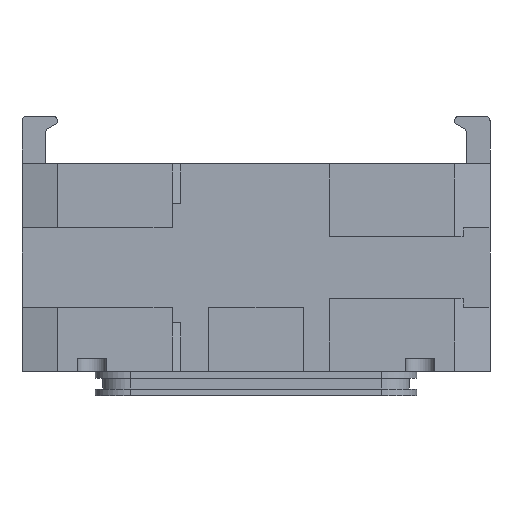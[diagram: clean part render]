
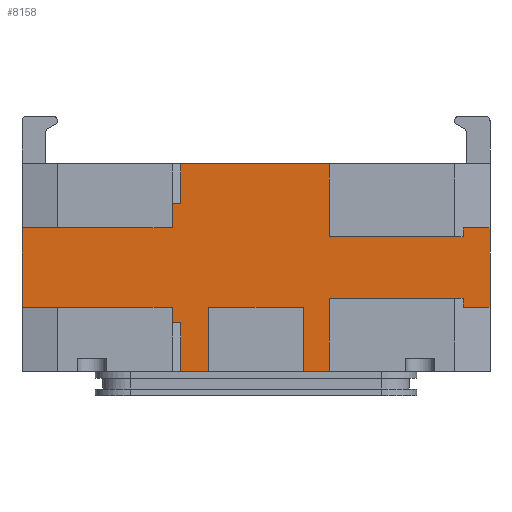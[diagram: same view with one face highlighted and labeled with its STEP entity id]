
A CAD part, front view. The second image highlights one B-rep face of the part: STEP entity #8158.
In plain terms, the highlighted planar face has unit normal (0, -1, 0).
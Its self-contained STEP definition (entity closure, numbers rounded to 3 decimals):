
#248 = VECTOR ( 'NONE', #17611, 1000. ) ;
#285 = VERTEX_POINT ( 'NONE', #24026 ) ;
#1222 = CARTESIAN_POINT ( 'NONE',  ( -19., 4., 23.5 ) ) ;
#1491 = EDGE_CURVE ( 'NONE', #28703, #16166, #20870, .T. ) ;
#1823 = ORIENTED_EDGE ( 'NONE', *, *, #14161, .T. ) ;
#2387 = DIRECTION ( 'NONE',  ( 0., 0., 1. ) ) ;
#2747 = EDGE_LOOP ( 'NONE', ( #19786, #20569, #11149, #17601, #21946, #21310, #16059, #1823, #12461, #24342, #4209, #14930, #24907, #29482, #22711, #23366 ) ) ;
#2853 = DIRECTION ( 'NONE',  ( 0., 0., -1. ) ) ;
#3646 = CARTESIAN_POINT ( 'NONE',  ( -53., 4., 9. ) ) ;
#4209 = ORIENTED_EDGE ( 'NONE', *, *, #14958, .F. ) ;
#4319 = CARTESIAN_POINT ( 'NONE',  ( -53., 4., 9. ) ) ;
#4833 = DIRECTION ( 'NONE',  ( 1., 0., 0. ) ) ;
#5076 = DIRECTION ( 'NONE',  ( 1., 0., 0. ) ) ;
#5847 = VECTOR ( 'NONE', #2853, 1000. ) ;
#6358 = DIRECTION ( 'NONE',  ( 1., 0., 0. ) ) ;
#6925 = DIRECTION ( 'NONE',  ( 0., 0., 1. ) ) ;
#7272 = EDGE_CURVE ( 'NONE', #21460, #13106, #11824, .T. ) ;
#7339 = DIRECTION ( 'NONE',  ( 0., 0., -1. ) ) ;
#7605 = CARTESIAN_POINT ( 'NONE',  ( -53., 4., -9. ) ) ;
#7661 = CARTESIAN_POINT ( 'NONE',  ( 16.6, 4., 23.5 ) ) ;
#7933 = EDGE_CURVE ( 'NONE', #15651, #22486, #23613, .T. ) ;
#8158 = ADVANCED_FACE ( 'NONE', ( #28865 ), #11967, .F. ) ;
#8590 = EDGE_CURVE ( 'NONE', #28703, #285, #16524, .T. ) ;
#8611 = EDGE_CURVE ( 'NONE', #17871, #24783, #12242, .T. ) ;
#8619 = LINE ( 'NONE', #23323, #14380 ) ;
#9254 = VERTEX_POINT ( 'NONE', #13043 ) ;
#9449 = VERTEX_POINT ( 'NONE', #12657 ) ;
#9455 = CARTESIAN_POINT ( 'NONE',  ( -53., 4., 9. ) ) ;
#9844 = CARTESIAN_POINT ( 'NONE',  ( 16.6, 4., 23.5 ) ) ;
#9981 = VERTEX_POINT ( 'NONE', #10105 ) ;
#10099 = VERTEX_POINT ( 'NONE', #10744 ) ;
#10105 = CARTESIAN_POINT ( 'NONE',  ( 16.6, 4., -9. ) ) ;
#10343 = CARTESIAN_POINT ( 'NONE',  ( 10.75, 4., -23.5 ) ) ;
#10347 = LINE ( 'NONE', #24551, #5847 ) ;
#10708 = VECTOR ( 'NONE', #5076, 1000. ) ;
#10744 = CARTESIAN_POINT ( 'NONE',  ( 53., 4., -9. ) ) ;
#11059 = CARTESIAN_POINT ( 'NONE',  ( 10.75, 4., -23.5 ) ) ;
#11149 = ORIENTED_EDGE ( 'NONE', *, *, #7933, .F. ) ;
#11824 = LINE ( 'NONE', #9455, #14229 ) ;
#11967 = PLANE ( 'NONE',  #13353 ) ;
#12216 = CARTESIAN_POINT ( 'NONE',  ( -53., 4., -9. ) ) ;
#12242 = LINE ( 'NONE', #14776, #17795 ) ;
#12376 = LINE ( 'NONE', #7661, #24879 ) ;
#12403 = DIRECTION ( 'NONE',  ( 1., 0., 0. ) ) ;
#12461 = ORIENTED_EDGE ( 'NONE', *, *, #23328, .T. ) ;
#12657 = CARTESIAN_POINT ( 'NONE',  ( -10.75, 4., -23.5 ) ) ;
#12700 = CARTESIAN_POINT ( 'NONE',  ( 53., 4., 9. ) ) ;
#12769 = VERTEX_POINT ( 'NONE', #20055 ) ;
#13043 = CARTESIAN_POINT ( 'NONE',  ( -19., 4., -9. ) ) ;
#13106 = VERTEX_POINT ( 'NONE', #4319 ) ;
#13317 = DIRECTION ( 'NONE',  ( 1., 0., 0. ) ) ;
#13353 = AXIS2_PLACEMENT_3D ( 'NONE', #18933, #16870, #6925 ) ;
#13662 = DIRECTION ( 'NONE',  ( -1., 0., 0. ) ) ;
#13943 = LINE ( 'NONE', #21073, #20024 ) ;
#14112 = CARTESIAN_POINT ( 'NONE',  ( 16.6, 4., 23.5 ) ) ;
#14161 = EDGE_CURVE ( 'NONE', #21460, #9254, #29106, .T. ) ;
#14222 = CARTESIAN_POINT ( 'NONE',  ( 16.6, 4., 9. ) ) ;
#14229 = VECTOR ( 'NONE', #19092, 1000. ) ;
#14380 = VECTOR ( 'NONE', #13662, 1000. ) ;
#14776 = CARTESIAN_POINT ( 'NONE',  ( -19., 4., 23.5 ) ) ;
#14905 = LINE ( 'NONE', #12700, #27075 ) ;
#14930 = ORIENTED_EDGE ( 'NONE', *, *, #17526, .F. ) ;
#14958 = EDGE_CURVE ( 'NONE', #27957, #9449, #28519, .T. ) ;
#15125 = VERTEX_POINT ( 'NONE', #28445 ) ;
#15169 = EDGE_CURVE ( 'NONE', #9981, #10099, #13943, .T. ) ;
#15651 = VERTEX_POINT ( 'NONE', #9844 ) ;
#16059 = ORIENTED_EDGE ( 'NONE', *, *, #7272, .F. ) ;
#16166 = VERTEX_POINT ( 'NONE', #30883 ) ;
#16369 = DIRECTION ( 'NONE',  ( 1., 0., 0. ) ) ;
#16524 = LINE ( 'NONE', #28827, #27369 ) ;
#16870 = DIRECTION ( 'NONE',  ( 0., 1., 0. ) ) ;
#17060 = LINE ( 'NONE', #21077, #24935 ) ;
#17216 = VECTOR ( 'NONE', #12403, 1000. ) ;
#17363 = CARTESIAN_POINT ( 'NONE',  ( -19., 4., 23.5 ) ) ;
#17526 = EDGE_CURVE ( 'NONE', #16166, #27957, #8619, .T. ) ;
#17601 = ORIENTED_EDGE ( 'NONE', *, *, #21738, .F. ) ;
#17611 = DIRECTION ( 'NONE',  ( 0., 0., -1. ) ) ;
#17795 = VECTOR ( 'NONE', #21893, 1000. ) ;
#17871 = VERTEX_POINT ( 'NONE', #1222 ) ;
#18933 = CARTESIAN_POINT ( 'NONE',  ( -19., 4., 23.5 ) ) ;
#19079 = CARTESIAN_POINT ( 'NONE',  ( -10.75, 4., -23.5 ) ) ;
#19092 = DIRECTION ( 'NONE',  ( 0., 0., 1. ) ) ;
#19217 = VECTOR ( 'NONE', #23769, 1000. ) ;
#19541 = CARTESIAN_POINT ( 'NONE',  ( -53., 4., 9. ) ) ;
#19786 = ORIENTED_EDGE ( 'NONE', *, *, #25926, .T. ) ;
#20024 = VECTOR ( 'NONE', #30684, 1000. ) ;
#20055 = CARTESIAN_POINT ( 'NONE',  ( -19., 4., -23.5 ) ) ;
#20569 = ORIENTED_EDGE ( 'NONE', *, *, #28812, .F. ) ;
#20855 = CARTESIAN_POINT ( 'NONE',  ( -10.75, 4., -9. ) ) ;
#20870 = LINE ( 'NONE', #11059, #28665 ) ;
#21073 = CARTESIAN_POINT ( 'NONE',  ( -53., 4., -9. ) ) ;
#21077 = CARTESIAN_POINT ( 'NONE',  ( -19., 4., -23.5 ) ) ;
#21310 = ORIENTED_EDGE ( 'NONE', *, *, #29862, .F. ) ;
#21460 = VERTEX_POINT ( 'NONE', #7605 ) ;
#21521 = CARTESIAN_POINT ( 'NONE',  ( -19., 4., 9. ) ) ;
#21650 = LINE ( 'NONE', #17363, #26670 ) ;
#21738 = EDGE_CURVE ( 'NONE', #17871, #15651, #21650, .T. ) ;
#21893 = DIRECTION ( 'NONE',  ( 0., 0., -1. ) ) ;
#21946 = ORIENTED_EDGE ( 'NONE', *, *, #8611, .T. ) ;
#22486 = VERTEX_POINT ( 'NONE', #14222 ) ;
#22708 = VECTOR ( 'NONE', #13317, 1000. ) ;
#22711 = ORIENTED_EDGE ( 'NONE', *, *, #30802, .F. ) ;
#23323 = CARTESIAN_POINT ( 'NONE',  ( -10.75, 4., -9. ) ) ;
#23328 = EDGE_CURVE ( 'NONE', #9254, #12769, #10347, .T. ) ;
#23366 = ORIENTED_EDGE ( 'NONE', *, *, #15169, .T. ) ;
#23613 = LINE ( 'NONE', #14112, #19217 ) ;
#23769 = DIRECTION ( 'NONE',  ( 0., 0., -1. ) ) ;
#24026 = CARTESIAN_POINT ( 'NONE',  ( 16.6, 4., -23.5 ) ) ;
#24282 = LINE ( 'NONE', #19541, #17216 ) ;
#24342 = ORIENTED_EDGE ( 'NONE', *, *, #25341, .T. ) ;
#24551 = CARTESIAN_POINT ( 'NONE',  ( -19., 4., 23.5 ) ) ;
#24783 = VERTEX_POINT ( 'NONE', #21521 ) ;
#24879 = VECTOR ( 'NONE', #7339, 1000. ) ;
#24907 = ORIENTED_EDGE ( 'NONE', *, *, #1491, .F. ) ;
#24935 = VECTOR ( 'NONE', #6358, 1000. ) ;
#25341 = EDGE_CURVE ( 'NONE', #12769, #9449, #17060, .T. ) ;
#25926 = EDGE_CURVE ( 'NONE', #10099, #15125, #14905, .T. ) ;
#26670 = VECTOR ( 'NONE', #4833, 1000. ) ;
#27075 = VECTOR ( 'NONE', #2387, 1000. ) ;
#27369 = VECTOR ( 'NONE', #16369, 1000. ) ;
#27780 = DIRECTION ( 'NONE',  ( 0., 0., 1. ) ) ;
#27957 = VERTEX_POINT ( 'NONE', #20855 ) ;
#28445 = CARTESIAN_POINT ( 'NONE',  ( 53., 4., 9. ) ) ;
#28519 = LINE ( 'NONE', #19079, #248 ) ;
#28665 = VECTOR ( 'NONE', #27780, 1000. ) ;
#28703 = VERTEX_POINT ( 'NONE', #10343 ) ;
#28812 = EDGE_CURVE ( 'NONE', #22486, #15125, #30065, .T. ) ;
#28827 = CARTESIAN_POINT ( 'NONE',  ( -19., 4., -23.5 ) ) ;
#28865 = FACE_OUTER_BOUND ( 'NONE', #2747, .T. ) ;
#29106 = LINE ( 'NONE', #12216, #10708 ) ;
#29482 = ORIENTED_EDGE ( 'NONE', *, *, #8590, .T. ) ;
#29862 = EDGE_CURVE ( 'NONE', #13106, #24783, #24282, .T. ) ;
#30065 = LINE ( 'NONE', #3646, #22708 ) ;
#30684 = DIRECTION ( 'NONE',  ( 1., 0., 0. ) ) ;
#30802 = EDGE_CURVE ( 'NONE', #9981, #285, #12376, .T. ) ;
#30883 = CARTESIAN_POINT ( 'NONE',  ( 10.75, 4., -9. ) ) ;
